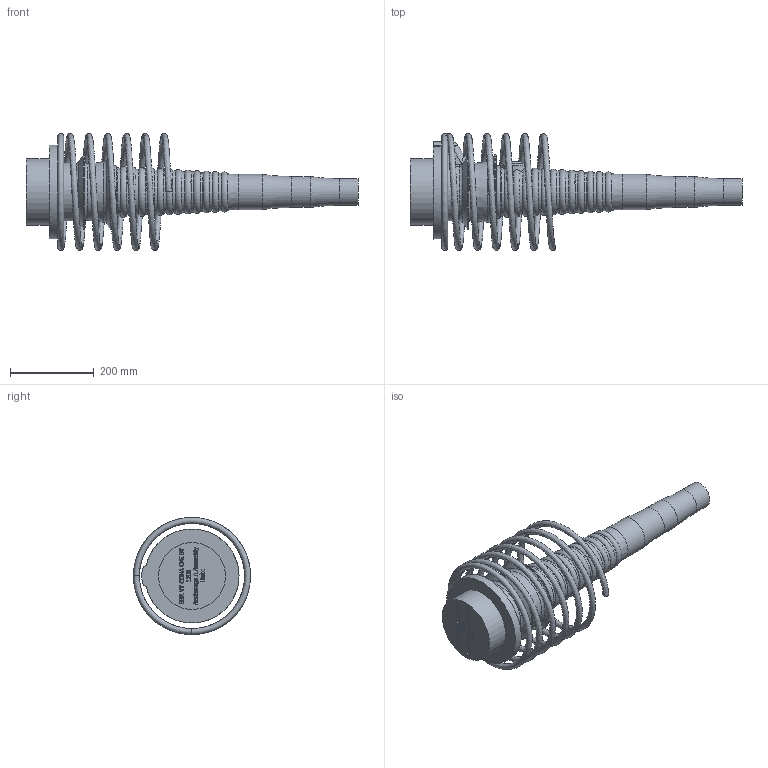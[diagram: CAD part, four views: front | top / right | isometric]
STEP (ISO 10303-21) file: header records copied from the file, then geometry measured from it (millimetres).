
FILE_DESCRIPTION(/* description */ (''),/* implementation_level */ '2;1');
FILE_NAME(/* name */ 'BBR VT CONA CMI BT 1206_Anchorage A Assembly_CS-43,35_Helix.stp',/* time_stamp */ '2025-04-28T14:42:15+02:00',/* author */ ('tk'),/* organization */ (''),/* preprocessor_version */ 'ST-DEVELOPER v20',/* originating_system */ 'Autodesk Inventor 2024',/* authorisation */ '');
FILE_SCHEMA (('AUTOMOTIVE_DESIGN { 1 0 10303 214 3 1 1 }'));
Length unit declared in the file: millimetre
Products named in the file (1): BBR VT CONA CMI BT 1206_Anchorage A Assembly_CS-43,35_Helix
Bounding box: 794.43 x 279.99 x 280 mm (x, y, z)
Volume: 8918360.1 mm3; surface area: 620350.3 mm2
Topology: 2 solids, 2 shells, 795 faces, 2104 edges, 1378 vertices
Faces by surface type: plane 372, bspline 317, torus 54, cylinder 21, cone 17, sphere 14
Full cylindrical faces by diameter (mm): 34 x1, 57 x1, 64.013 x1, 74.013 x1, 84.013 x1, 160 x1, 177.282 x1, 178.841 x1
Entity records: 31164 total; most frequent: CARTESIAN_POINT 12581, ORIENTED_EDGE 4208, DIRECTION 2659, EDGE_CURVE 2104, VERTEX_POINT 1378, LINE 1229, VECTOR 1229, EDGE_LOOP 862
